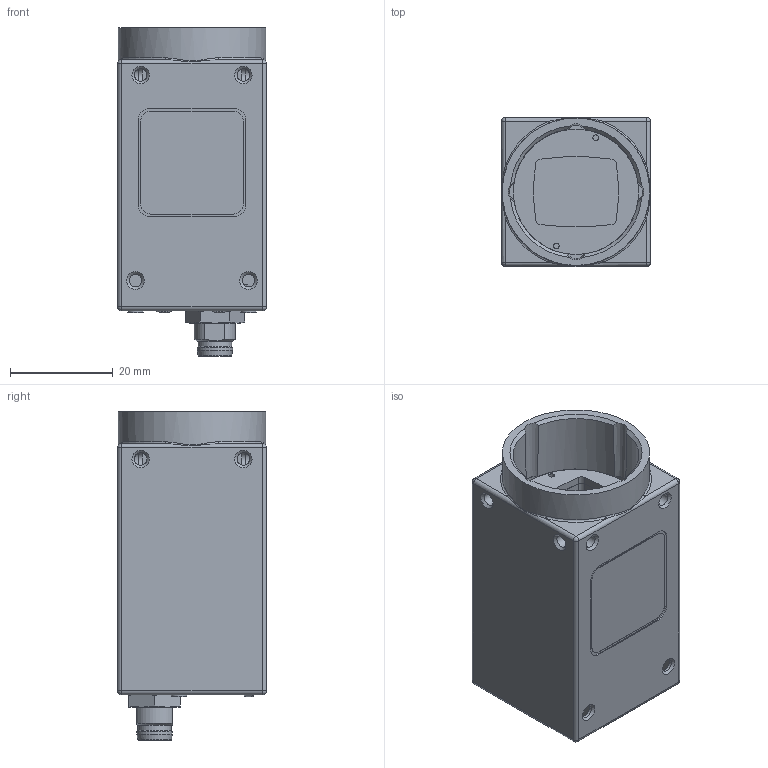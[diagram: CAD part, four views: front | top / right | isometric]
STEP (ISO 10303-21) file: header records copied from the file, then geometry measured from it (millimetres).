
FILE_DESCRIPTION( ( 'Unknown' ), '1' );
FILE_NAME( 'C:/Users/rih/Desktop/11172630_VCXG-124M.stp', '14.10.2014', ( 'Unknown' ), ( 'Unknown' ), 'PSStep 15.0.49', 'Unknown', ' ' );
FILE_SCHEMA( ( 'AUTOMOTIVE_DESIGN { 1 0 10303 214 1 1 1 1 }' ) );
Length unit declared in the file: millimetre
Products named in the file (3): 11149143
Bounding box: 29 x 29 x 64.03 mm (x, y, z)
Volume: 13362.9 mm3; surface area: 23617.1 mm2
Topology: 3 solids, 7 shells, 2471 faces, 6489 edges, 4255 vertices
Faces by surface type: plane 1424, cylinder 842, cone 72, torus 53, sphere 48, bspline 24, extrusion 8
Full cylindrical faces by diameter (mm): 0.217 x1, 0.6 x242, 1.1 x2, 1.4 x4, 1.567 x2, 1.6 x2, 1.9 x4, 2.459 x10, 3 x4, 6.5 x1, 6.9 x1, 8.4 x1, 9 x1, 9.4 x1, 24.4 x1, 26 x1, 28.7 x1
Entity records: 94252 total; most frequent: CARTESIAN_POINT 15812, DIRECTION 12187, ORIENTED_EDGE 11670, EDGE_CURVE 5835, AXIS2_PLACEMENT_3D 4308, VERTEX_POINT 3962, VECTOR 3571, LINE 3563
